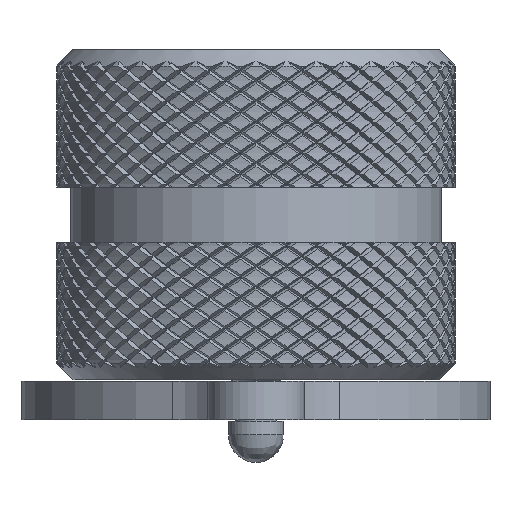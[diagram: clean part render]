
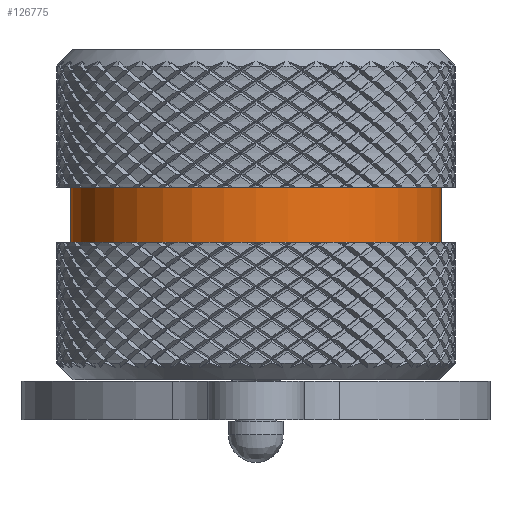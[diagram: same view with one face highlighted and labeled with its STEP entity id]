
A CAD part, left-side view. The second image highlights one B-rep face of the part: STEP entity #126775.
In plain terms, the highlighted cylindrical face has radius 6.75 mm (diameter 13.5 mm), a partial arc.
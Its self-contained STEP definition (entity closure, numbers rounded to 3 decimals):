
#2804 = CARTESIAN_POINT ( 'NONE',  ( 0., 6.75, -7. ) ) ;
#3142 = EDGE_CURVE ( 'NONE', #240219, #45917, #127131, .T. ) ;
#17626 = CARTESIAN_POINT ( 'NONE',  ( 0., -6.75, -5. ) ) ;
#24361 = CARTESIAN_POINT ( 'NONE',  ( 0., -6.75, -7. ) ) ;
#29937 = AXIS2_PLACEMENT_3D ( 'NONE', #243711, #99365, #62239 ) ;
#31459 = DIRECTION ( 'NONE',  ( -1., 0., 0. ) ) ;
#41310 = ORIENTED_EDGE ( 'NONE', *, *, #145694, .F. ) ;
#42064 = DIRECTION ( 'NONE',  ( 0., 0., 1. ) ) ;
#45917 = VERTEX_POINT ( 'NONE', #209476 ) ;
#49441 = LINE ( 'NONE', #189895, #233878 ) ;
#62239 = DIRECTION ( 'NONE',  ( -1., 0., 0. ) ) ;
#92014 = CARTESIAN_POINT ( 'NONE',  ( 0., 0., -4.939 ) ) ;
#93688 = CARTESIAN_POINT ( 'NONE',  ( 0., 0., -7. ) ) ;
#99365 = DIRECTION ( 'NONE',  ( 0., 0., -1. ) ) ;
#104103 = CIRCLE ( 'NONE', #108303, 6.75 ) ;
#108303 = AXIS2_PLACEMENT_3D ( 'NONE', #93688, #191791, #31459 ) ;
#120821 = EDGE_LOOP ( 'NONE', ( #222494, #152158, #41310, #131894 ) ) ;
#126775 = ADVANCED_FACE ( 'NONE', ( #168896 ), #131763, .T. ) ;
#127131 = CIRCLE ( 'NONE', #29937, 6.75 ) ;
#131763 = CYLINDRICAL_SURFACE ( 'NONE', #179703, 6.75 ) ;
#131894 = ORIENTED_EDGE ( 'NONE', *, *, #252985, .T. ) ;
#145375 = CARTESIAN_POINT ( 'NONE',  ( 0., -6.75, -4.939 ) ) ;
#145694 = EDGE_CURVE ( 'NONE', #236322, #147415, #104103, .T. ) ;
#147415 = VERTEX_POINT ( 'NONE', #2804 ) ;
#152158 = ORIENTED_EDGE ( 'NONE', *, *, #235589, .T. ) ;
#168896 = FACE_OUTER_BOUND ( 'NONE', #120821, .T. ) ;
#170203 = DIRECTION ( 'NONE',  ( -1., 0., 0. ) ) ;
#179703 = AXIS2_PLACEMENT_3D ( 'NONE', #92014, #211255, #170203 ) ;
#189895 = CARTESIAN_POINT ( 'NONE',  ( 0., 6.75, -4.939 ) ) ;
#191791 = DIRECTION ( 'NONE',  ( 0., 0., -1. ) ) ;
#209476 = CARTESIAN_POINT ( 'NONE',  ( 0., 6.75, -5. ) ) ;
#211255 = DIRECTION ( 'NONE',  ( 0., 0., -1. ) ) ;
#222494 = ORIENTED_EDGE ( 'NONE', *, *, #3142, .T. ) ;
#232230 = DIRECTION ( 'NONE',  ( 0., 0., -1. ) ) ;
#233878 = VECTOR ( 'NONE', #232230, 1000. ) ;
#235589 = EDGE_CURVE ( 'NONE', #45917, #147415, #49441, .T. ) ;
#236322 = VERTEX_POINT ( 'NONE', #24361 ) ;
#240219 = VERTEX_POINT ( 'NONE', #17626 ) ;
#243711 = CARTESIAN_POINT ( 'NONE',  ( 0., 0., -5. ) ) ;
#247104 = VECTOR ( 'NONE', #42064, 1000. ) ;
#247375 = LINE ( 'NONE', #145375, #247104 ) ;
#252985 = EDGE_CURVE ( 'NONE', #236322, #240219, #247375, .T. ) ;
